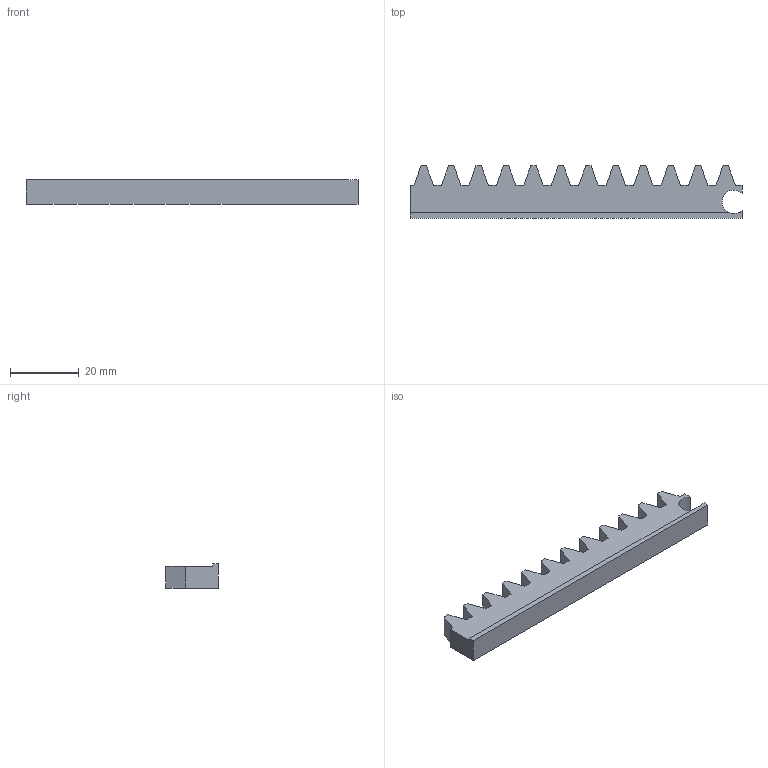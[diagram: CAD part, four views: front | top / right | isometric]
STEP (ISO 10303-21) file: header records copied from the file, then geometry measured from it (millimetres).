
FILE_DESCRIPTION (( 'STEP AP214' ), '1' );
FILE_NAME ('4 - Slider Rack.STEP', '2022-11-25T05:44:06', ( '' ), ( '' ), 'SwSTEP 2.0', 'SolidWorks 2021', '' );
FILE_SCHEMA (( 'AUTOMOTIVE_DESIGN' ));
Length unit declared in the file: inch
Products named in the file (1): 4 - Slider Rack
Bounding box: 96.52 x 15.24 x 7.11 mm (x, y, z)
Volume: 7315.1 mm3; surface area: 4444 mm2
Topology: 1 solids, 1 shells, 61 faces, 177 edges, 118 vertices
Faces by surface type: plane 59, cylinder 2
Entity records: 2017 total; most frequent: CARTESIAN_POINT 357, ORIENTED_EDGE 354, DIRECTION 307, EDGE_CURVE 177, VECTOR 171, LINE 171, VERTEX_POINT 118, AXIS2_PLACEMENT_3D 68
